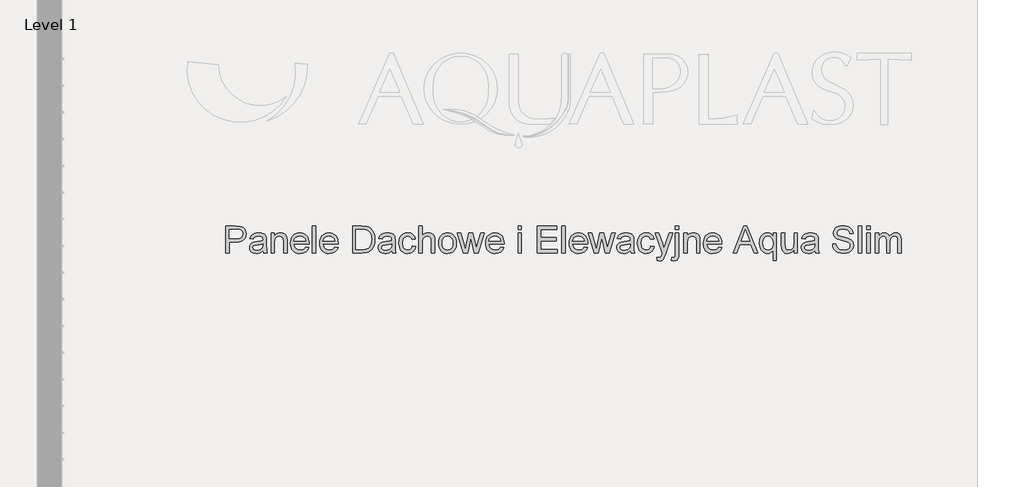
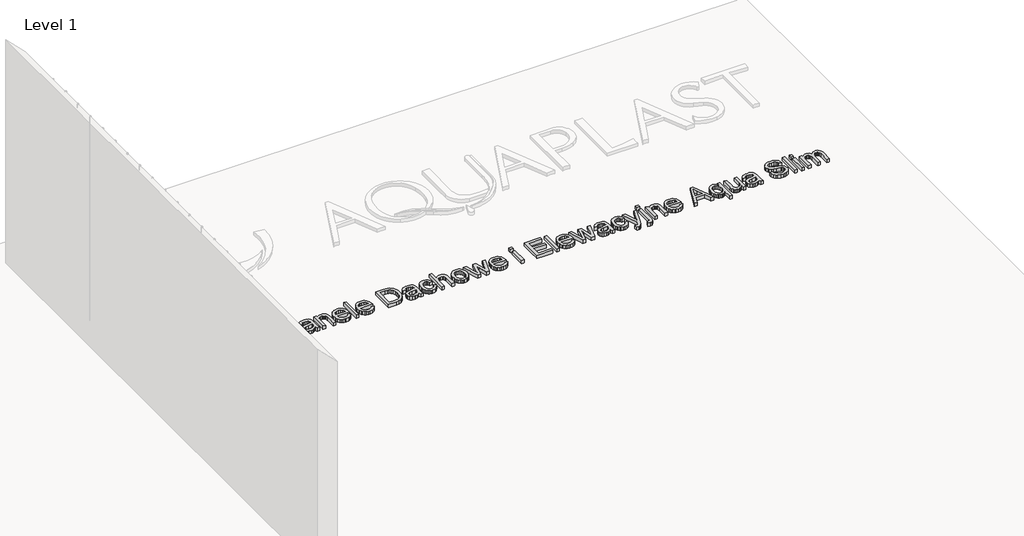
# One storey, part 24 of 24: 1 proxy.
"""IFC4 building model written with IfcOpenShell, lengths in millimetres."""

from ifc_helpers import new_model, si_unit, frame, origin, place, context, project, spatial, polyline, outline, extrude, element, save

model = new_model("IFC4")

# Units and contexts
model_context = context("Model", 3, world=origin())
ifc_project = project(units=[si_unit("LENGTHUNIT", "METRE", prefix="MILLI")], contexts=[model_context])

# Site, building, storey
site = spatial("IfcSite", under=ifc_project)
building = spatial("IfcBuilding", under=site)
storey = spatial("IfcBuildingStorey", under=building, Name="Level 1", Elevation=0.0)

# Proxy
placement = place(None, origin())
element("IfcBuildingElementProxy", 1, Name="400", ObjectType="400", at=placement, inside=storey, context=model_context, shape_type="SweptSolid", body=[
    extrude(outline(polyline([(-320.091711, 13060.2215643), (-320.091711, 13361.5904947), (-208.4027373, 13361.5904947), (-163.3739811, 13358.7210151), (-143.2968212, 13353.3591351), (-126.7697225, 13344.6311347), (-113.4615914, 13332.141541), (-103.0413339, 13315.4948807), (-96.3090933, 13295.8591792), (-94.0650132, 13274.4024618), (-95.5802271, 13255.902596), (-100.125869, 13238.8834552), (-107.7019389, 13223.3450394), (-118.3084367, 13209.2873487), (-132.8696659, 13197.6346865), (-152.3099301, 13189.3113564), (-176.6292292, 13184.3173583), (-205.8275633, 13182.6526923), (-282.4205947, 13182.6526923), (-282.4205947, 13060.2215643), (-320.091711, 13060.2215643)]), holes=[polyline([(-282.4205947, 13220.3238086), (-203.6202713, 13220.3238086), (-170.2165862, 13223.7818993), (-148.1436665, 13234.1561716), (-135.8380137, 13250.8028319), (-131.7361295, 13273.0780867), (-134.1549536, 13290.0006584), (-141.4114259, 13304.2744799), (-152.6042357, 13315.0166341), (-166.8320718, 13321.3442044), (-204.5031881, 13323.9193784), (-282.4205947, 13323.9193784), (-282.4205947, 13220.3238086)])]), frame((0.0, 0.0, 600.0), z_axis=(0.0, 0.0, 1.0), x_axis=(1.0, 0.0, 0.0)), (0.0, 0.0, 1.0), 50.0),
    extrude(outline(polyline([(94.2905684, 13088.4749015), (76.2919417, 13073.0422518), (57.7598862, 13062.943891), (38.2713375, 13057.3704788), (17.4032314, 13055.5126747), (-14.0782704, 13059.982441), (-37.3008213, 13073.3917397), (-51.620628, 13093.7540081), (-56.3938969, 13119.0826835), (-54.5912751, 13134.6992742), (-49.1834098, 13148.8811251), (-40.8416855, 13161.0212309), (-30.237487, 13170.5125864), (-3.860348, 13182.8734214), (28.7339968, 13188.5388042), (67.2512417, 13194.4984925), (94.0698392, 13201.4882504), (94.2905684, 13209.8759599), (91.6970003, 13226.6881671), (83.9162961, 13237.6878387), (66.5154777, 13245.854819), (42.2720542, 13248.5771458), (19.8312525, 13246.765327), (4.1594795, 13241.3298705), (-6.5274924, 13231.277495), (-14.013891, 13215.614919), (-51.6850073, 13220.3238086), (-45.1459049, 13240.9252003), (-35.3878349, 13257.1120081), (-21.5002896, 13269.4912372), (-2.572761, 13278.669893), (20.5762136, 13284.3536698), (47.1280966, 13286.2482621), (72.5947277, 13284.574399), (92.7822522, 13279.5528098), (108.0033697, 13272.0020318), (118.57078, 13262.7406026), (125.5789321, 13251.2902755), (130.1222747, 13237.1728039), (131.9616847, 13204.2105772), (131.9616847, 13157.342411), (133.874671, 13091.896204), (141.3794637, 13060.2215643), (103.7083474, 13060.2215643), (94.2905684, 13088.4749015)]), holes=[polyline([(94.2905684, 13163.8171341), (33.5164628, 13152.2656395), (1.106059, 13146.1587983), (-13.5724326, 13136.2259845), (-18.7227806, 13121.7314339), (-15.9176803, 13110.5294271), (-7.5023797, 13101.3507713), (6.3391804, 13095.2255361), (25.4230589, 13093.183791), (45.6565686, 13095.4370682), (63.5356336, 13102.1968999), (78.0301842, 13112.1573049), (88.1101508, 13124.0123022), (92.5799171, 13136.2259845), (94.0698392, 13153.1485562), (94.2905684, 13163.8171341)])]), frame((0.0, 0.0, 600.0), z_axis=(0.0, 0.0, 1.0), x_axis=(1.0, 0.0, 0.0)), (0.0, 0.0, 1.0), 50.0),
    extrude(outline(polyline([(183.7594696, 13060.2215643), (183.7594696, 13281.5393726), (221.4305859, 13281.5393726), (221.4305859, 13250.637285), (234.5179879, 13266.2170875), (250.2357461, 13277.3455178), (268.5838606, 13284.022576), (289.5623314, 13286.2482621), (308.1311751, 13284.4548374), (325.1365203, 13279.0745632), (339.3183712, 13270.7788242), (349.416732, 13260.239005), (360.7107093, 13232.5374908), (362.697272, 13196.1171733), (362.697272, 13060.2215643), (325.0261557, 13060.2215643), (325.0261557, 13191.0404017), (320.6851482, 13224.3705105), (314.6794746, 13234.2941273), (305.344469, 13241.9920581), (293.3791071, 13246.9308739), (279.4823647, 13248.5771458), (257.4186421, 13244.8799317), (238.6106751, 13233.7882896), (231.0943861, 13224.733794), (225.7256082, 13212.3591634), (221.4305859, 13177.6494971), (221.4305859, 13060.2215643), (183.7594696, 13060.2215643)])), frame((0.0, 0.0, 600.0), z_axis=(0.0, 0.0, 1.0), x_axis=(1.0, 0.0, 0.0)), (0.0, 0.0, 1.0), 50.0),
    extrude(outline(polyline([(569.4469533, 13126.1460178), (606.3823056, 13121.4371283), (593.0741745, 13093.6068553), (571.8381863, 13072.8031285), (543.1525877, 13059.8352882), (507.4956253, 13055.5126747), (484.1213231, 13057.3773766), (463.2946036, 13062.9714822), (445.015467, 13072.2949915), (429.2839132, 13085.3479045), (416.6333711, 13101.7669378), (407.5972696, 13121.1888079), (402.1756086, 13143.6135148), (400.3683883, 13169.0410584), (402.1940027, 13195.3308255), (407.670846, 13218.5027927), (416.798918, 13238.5569599), (429.5782188, 13255.4933273), (445.2683859, 13268.9486113), (463.1290567, 13278.5595284), (483.1602314, 13284.3260787), (505.3619098, 13286.2482621), (526.8485176, 13284.3306772), (546.2795847, 13278.5779225), (563.6551112, 13268.989998), (578.975097, 13255.5669037), (591.4807856, 13238.6673245), (600.4134203, 13218.6499455), (605.7730011, 13195.5147665), (607.559528, 13169.2617876), (607.3387988, 13159.1082446), (438.0395047, 13159.1082446), (444.560213, 13130.9100896), (459.7077542, 13110.1799392), (481.5691417, 13097.4328281), (508.2313893, 13093.183791), (528.2809581, 13095.1519597), (545.1667417, 13101.0564657), (558.8887401, 13111.2651911), (569.4469533, 13126.1460178)]), holes=[polyline([(438.0395047, 13196.7793609), (569.8884117, 13196.7793609), (564.7932461, 13216.6817768), (554.8052499, 13230.91881), (532.8426948, 13244.1625618), (505.214757, 13248.5771458), (479.8217023, 13245.0546757), (458.8248374, 13234.4872654), (444.2291192, 13218.015349), (438.0395047, 13196.7793609)])]), frame((0.0, 0.0, 600.0), z_axis=(0.0, 0.0, 1.0), x_axis=(1.0, 0.0, 0.0)), (0.0, 0.0, 1.0), 50.0),
    extrude(outline(polyline([(645.2306443, 13060.2215643), (645.2306443, 13361.5904947), (682.9017606, 13361.5904947), (682.9017606, 13060.2215643), (645.2306443, 13060.2215643)])), frame((0.0, 0.0, 600.0), z_axis=(0.0, 0.0, 1.0), x_axis=(1.0, 0.0, 0.0)), (0.0, 0.0, 1.0), 50.0),
    extrude(outline(polyline([(894.3603315, 13126.1460178), (931.2956838, 13121.4371283), (917.9875526, 13093.6068553), (896.7515644, 13072.8031285), (868.0659659, 13059.8352882), (832.4090035, 13055.5126747), (809.0347012, 13057.3773766), (788.2079818, 13062.9714822), (769.9288451, 13072.2949915), (754.1972913, 13085.3479045), (741.5467492, 13101.7669378), (732.5106477, 13121.1888079), (727.0889868, 13143.6135148), (725.2817665, 13169.0410584), (727.1073809, 13195.3308255), (732.5842241, 13218.5027927), (741.7122961, 13238.5569599), (754.4915969, 13255.4933273), (770.181764, 13268.9486113), (788.0424349, 13278.5595284), (808.0736095, 13284.3260787), (830.2752879, 13286.2482621), (851.7618957, 13284.3306772), (871.1929628, 13278.5779225), (888.5684893, 13268.989998), (903.8884751, 13255.5669037), (916.3941637, 13238.6673245), (925.3267984, 13218.6499455), (930.6863792, 13195.5147665), (932.4729062, 13169.2617876), (932.252177, 13159.1082446), (762.9528828, 13159.1082446), (769.4735912, 13130.9100896), (784.6211323, 13110.1799392), (806.4825199, 13097.4328281), (833.1447675, 13093.183791), (853.1943362, 13095.1519597), (870.0801198, 13101.0564657), (883.8021182, 13111.2651911), (894.3603315, 13126.1460178)]), holes=[polyline([(762.9528828, 13196.7793609), (894.8017899, 13196.7793609), (889.7066242, 13216.6817768), (879.7186281, 13230.91881), (857.756073, 13244.1625618), (830.1281351, 13248.5771458), (804.7350804, 13245.0546757), (783.7382155, 13234.4872654), (769.1424974, 13218.015349), (762.9528828, 13196.7793609)])]), frame((0.0, 0.0, 600.0), z_axis=(0.0, 0.0, 1.0), x_axis=(1.0, 0.0, 0.0)), (0.0, 0.0, 1.0), 50.0),
    extrude(outline(polyline([(1092.5751505, 13060.2215643), (1092.5751505, 13361.5904947), (1196.5386023, 13361.5904947), (1250.32295, 13357.2494872), (1274.3456443, 13348.8801718), (1294.6159422, 13335.6916022), (1315.4564573, 13312.7357657), (1330.3004958, 13284.1881229), (1339.1848459, 13250.6004968), (1342.146296, 13212.5247103), (1340.1413391, 13180.1786858), (1334.1264685, 13151.7138165), (1324.9662068, 13127.47959), (1313.5250768, 13107.8254944), (1300.3549013, 13092.3100713), (1286.0075035, 13080.4918622), (1269.5355872, 13071.7270737), (1249.9918562, 13065.3719122), (1201.5417974, 13060.2215643), (1092.5751505, 13060.2215643)]), holes=[polyline([(1130.2462668, 13097.8926806), (1196.9064843, 13097.8926806), (1224.4792398, 13099.2538439), (1245.3933313, 13103.3373341), (1261.1754689, 13109.9040277), (1273.3523629, 13118.7148015), (1286.4397649, 13135.0211709), (1296.2714112, 13156.1284004), (1302.4242376, 13182.1284604), (1304.4751797, 13213.1133215), (1300.4560689, 13254.1689521), (1288.3987365, 13284.4824285), (1270.5840509, 13305.3045494), (1249.2928804, 13317.8861137), (1227.6246309, 13322.4110622), (1195.8764147, 13323.9193784), (1130.2462668, 13323.9193784), (1130.2462668, 13097.8926806)])]), frame((0.0, 0.0, 600.0), z_axis=(0.0, 0.0, 1.0), x_axis=(1.0, 0.0, 0.0)), (0.0, 0.0, 1.0), 50.0),
    extrude(outline(polyline([(1530.5018775, 13088.4749015), (1512.5032509, 13073.0422518), (1493.9711954, 13062.943891), (1474.4826467, 13057.3704788), (1453.6145405, 13055.5126747), (1422.1330388, 13059.982441), (1398.9104879, 13073.3917397), (1384.5906812, 13093.7540081), (1379.8174123, 13119.0826835), (1381.6200341, 13134.6992742), (1387.0278994, 13148.8811251), (1395.3696237, 13161.0212309), (1405.9738222, 13170.5125864), (1432.3509612, 13182.8734214), (1464.945306, 13188.5388042), (1503.4625509, 13194.4984925), (1530.2811483, 13201.4882504), (1530.5018775, 13209.8759599), (1527.9083095, 13226.6881671), (1520.1276053, 13237.6878387), (1502.7267869, 13245.854819), (1478.4833634, 13248.5771458), (1456.0425617, 13246.765327), (1440.3707887, 13241.3298705), (1429.6838168, 13231.277495), (1422.1974182, 13215.614919), (1384.5263018, 13220.3238086), (1391.0654043, 13240.9252003), (1400.8234742, 13257.1120081), (1414.7110195, 13269.4912372), (1433.6385482, 13278.669893), (1456.7875227, 13284.3536698), (1483.3394057, 13286.2482621), (1508.8060369, 13284.574399), (1528.9935614, 13279.5528098), (1544.2146789, 13272.0020318), (1554.7820892, 13262.7406026), (1561.7902412, 13251.2902755), (1566.3335839, 13237.1728039), (1568.1729938, 13204.2105772), (1568.1729938, 13157.342411), (1570.0859802, 13091.896204), (1577.5907729, 13060.2215643), (1539.9196566, 13060.2215643), (1530.5018775, 13088.4749015)]), holes=[polyline([(1530.5018775, 13163.8171341), (1469.7277719, 13152.2656395), (1437.3173682, 13146.1587983), (1422.6388765, 13136.2259845), (1417.4885286, 13121.7314339), (1420.2936288, 13110.5294271), (1428.7089295, 13101.3507713), (1442.5504895, 13095.2255361), (1461.634368, 13093.183791), (1481.8678778, 13095.4370682), (1499.7469427, 13102.1968999), (1514.2414933, 13112.1573049), (1524.32146, 13124.0123022), (1528.7912263, 13136.2259845), (1530.2811483, 13153.1485562), (1530.5018775, 13163.8171341)])]), frame((0.0, 0.0, 600.0), z_axis=(0.0, 0.0, 1.0), x_axis=(1.0, 0.0, 0.0)), (0.0, 0.0, 1.0), 50.0),
    extrude(outline(polyline([(1761.2374649, 13140.2726864), (1798.9085812, 13135.5637969), (1788.4055503, 13102.0589442), (1768.6686812, 13076.7394658), (1741.5557782, 13060.8193725), (1708.9246452, 13055.5126747), (1687.7967224, 13057.363581), (1668.8530989, 13062.9162999), (1652.0937747, 13072.1708313), (1637.5187499, 13085.1271753), (1625.7212342, 13101.5416101), (1617.2944372, 13121.1704138), (1612.2383591, 13144.0135864), (1610.5529997, 13170.071128), (1613.4316763, 13203.5943748), (1622.0677061, 13232.6478554), (1636.5990449, 13256.1095296), (1657.1636485, 13272.8573575), (1681.7657569, 13282.9005359), (1708.4096104, 13286.2482621), (1740.2406, 13281.6497372), (1765.688837, 13267.8541623), (1783.9449811, 13245.5973016), (1794.1996917, 13215.614919), (1756.5285754, 13210.9060295), (1749.6951673, 13227.3411576), (1739.0541806, 13239.1225785), (1725.1942264, 13246.213504), (1708.703916, 13248.5771458), (1684.359325, 13243.9234385), (1665.0363232, 13229.9623168), (1652.4271678, 13205.9396225), (1648.224116, 13171.1011976), (1652.3351973, 13135.7937231), (1664.6684412, 13111.6882554), (1683.6419551, 13097.8099071), (1707.6738464, 13093.183791), (1727.1807892, 13096.0716647), (1743.1744589, 13104.7352857), (1754.808727, 13119.3953832), (1761.2374649, 13140.2726864)])), frame((0.0, 0.0, 600.0), z_axis=(0.0, 0.0, 1.0), x_axis=(1.0, 0.0, 0.0)), (0.0, 0.0, 1.0), 50.0),
    extrude(outline(polyline([(1831.870808, 13060.2215643), (1831.870808, 13361.5904947), (1869.5419243, 13361.5904947), (1869.5419243, 13250.7844378), (1883.3788858, 13266.2998609), (1898.9173016, 13277.382306), (1916.1571716, 13284.0317731), (1935.0984958, 13286.2482621), (1957.8519972, 13283.829438), (1977.4049253, 13276.5729656), (1992.8007868, 13265.0490621), (2003.0830885, 13249.8279446), (2008.87723, 13228.9138531), (2010.8086104, 13200.311028), (2010.8086104, 13060.2215643), (1973.1374941, 13060.2215643), (1973.1374941, 13196.4114789), (1970.1392559, 13219.9927148), (1961.1445411, 13236.1427344), (1946.6499905, 13245.4685429), (1927.1522447, 13248.5771458), (1911.2321514, 13246.4802184), (1896.2869453, 13240.1894363), (1883.9077162, 13230.3118047), (1875.6855536, 13217.454329), (1871.0778316, 13200.3662103), (1869.5419243, 13177.7966499), (1869.5419243, 13060.2215643), (1831.870808, 13060.2215643)])), frame((0.0, 0.0, 600.0), z_axis=(0.0, 0.0, 1.0), x_axis=(1.0, 0.0, 0.0)), (0.0, 0.0, 1.0), 50.0),
    extrude(outline(polyline([(2053.1886163, 13170.8804684), (2055.2257628, 13199.5430744), (2061.3372025, 13224.2417518), (2071.5229352, 13244.9765008), (2085.7829611, 13261.7473212), (2100.1395559, 13272.4664828), (2115.9860729, 13280.1230269), (2133.3225119, 13284.7169533), (2152.148873, 13286.2482621), (2172.9319064, 13284.3835602), (2191.7237786, 13278.7894546), (2208.5244895, 13269.4659453), (2223.334039, 13256.4130323), (2235.4212619, 13240.0721739), (2244.0549924, 13220.8848286), (2249.2352308, 13198.8509964), (2250.9619769, 13173.9706772), (2247.9085563, 13135.9132848), (2238.7482946, 13106.9425776), (2223.7479063, 13085.246737), (2203.1741057, 13069.0139439), (2178.7375442, 13058.887992), (2152.148873, 13055.5126747), (2131.0623369, 13057.3704788), (2112.0957208, 13062.943891), (2095.2490246, 13072.2329114), (2080.5222485, 13085.2375399), (2068.5637844, 13101.7370474), (2060.0220243, 13121.5107047), (2054.8969683, 13144.5585117), (2053.1886163, 13170.8804684)]), holes=[polyline([(2090.8597326, 13170.9540448), (2095.2191342, 13136.8605809), (2108.2973392, 13112.5711722), (2127.9790259, 13098.0306363), (2152.148873, 13093.183791), (2176.2083555, 13098.0582275), (2195.853254, 13112.6815368), (2208.9314589, 13137.2928422), (2213.2908606, 13172.1312672), (2208.9038678, 13205.2314497), (2195.7428894, 13229.1897646), (2176.0703997, 13243.7303005), (2152.148873, 13248.5771458), (2127.9790259, 13243.7486946), (2108.2973392, 13229.263341), (2095.2191342, 13205.0291146), (2090.8597326, 13170.9540448)])]), frame((0.0, 0.0, 600.0), z_axis=(0.0, 0.0, 1.0), x_axis=(1.0, 0.0, 0.0)), (0.0, 0.0, 1.0), 50.0),
    extrude(outline(polyline([(2330.3509114, 13060.2215643), (2262.7342007, 13281.5393726), (2301.8032686, 13281.5393726), (2340.0629961, 13152.4127922), (2351.467338, 13106.2803901), (2360.8115406, 13150.7205351), (2391.1985934, 13281.5393726), (2435.9330441, 13281.5393726), (2466.3200969, 13151.0884171), (2474.63423, 13110.8421268), (2486.5536066, 13153.295709), (2524.8133341, 13281.5393726), (2564.1031312, 13281.5393726), (2496.2656913, 13060.2215643), (2450.7954767, 13060.2215643), (2421.8063754, 13190.0103322), (2413.418666, 13230.4773516), (2376.1154316, 13060.2215643), (2330.3509114, 13060.2215643)])), frame((0.0, 0.0, 600.0), z_axis=(0.0, 0.0, 1.0), x_axis=(1.0, 0.0, 0.0)), (0.0, 0.0, 1.0), 50.0),
    extrude(outline(polyline([(2744.95392, 13126.1460178), (2781.8892723, 13121.4371283), (2768.5811411, 13093.6068553), (2747.345153, 13072.8031285), (2718.6595544, 13059.8352882), (2683.002592, 13055.5126747), (2659.6282898, 13057.3773766), (2638.8015703, 13062.9714822), (2620.5224337, 13072.2949915), (2604.7908798, 13085.3479045), (2592.1403377, 13101.7669378), (2583.1042362, 13121.1888079), (2577.6825753, 13143.6135148), (2575.875355, 13169.0410584), (2577.7009694, 13195.3308255), (2583.1778126, 13218.5027927), (2592.3058846, 13238.5569599), (2605.0851854, 13255.4933273), (2620.7753525, 13268.9486113), (2638.6360234, 13278.5595284), (2658.667198, 13284.3260787), (2680.8688764, 13286.2482621), (2702.3554842, 13284.3306772), (2721.7865514, 13278.5779225), (2739.1620778, 13268.989998), (2754.4820637, 13255.5669037), (2766.9877523, 13238.6673245), (2775.920387, 13218.6499455), (2781.2799678, 13195.5147665), (2783.0664947, 13169.2617876), (2782.8457655, 13159.1082446), (2613.5464713, 13159.1082446), (2620.0671797, 13130.9100896), (2635.2147208, 13110.1799392), (2657.0761084, 13097.4328281), (2683.738356, 13093.183791), (2703.7879247, 13095.1519597), (2720.6737083, 13101.0564657), (2734.3957067, 13111.2651911), (2744.95392, 13126.1460178)]), holes=[polyline([(2613.5464713, 13196.7793609), (2745.3953784, 13196.7793609), (2740.3002128, 13216.6817768), (2730.3122166, 13230.91881), (2708.3496615, 13244.1625618), (2680.7217237, 13248.5771458), (2655.3286689, 13245.0546757), (2634.3318041, 13234.4872654), (2619.7360859, 13218.015349), (2613.5464713, 13196.7793609)])]), frame((0.0, 0.0, 600.0), z_axis=(0.0, 0.0, 1.0), x_axis=(1.0, 0.0, 0.0)), (0.0, 0.0, 1.0), 50.0),
    extrude(outline(polyline([(2938.4598495, 13323.9193784), (2938.4598495, 13361.5904947), (2976.1309658, 13361.5904947), (2976.1309658, 13323.9193784), (2938.4598495, 13323.9193784)])), frame((0.0, 0.0, 600.0), z_axis=(0.0, 0.0, 1.0), x_axis=(1.0, 0.0, 0.0)), (0.0, 0.0, 1.0), 50.0),
    extrude(outline(polyline([(2938.4598495, 13060.2215643), (2938.4598495, 13281.5393726), (2976.1309658, 13281.5393726), (2976.1309658, 13060.2215643), (2938.4598495, 13060.2215643)])), frame((0.0, 0.0, 600.0), z_axis=(0.0, 0.0, 1.0), x_axis=(1.0, 0.0, 0.0)), (0.0, 0.0, 1.0), 50.0),
    extrude(outline(polyline([(3155.0687682, 13060.2215643), (3155.0687682, 13361.5904947), (3371.677687, 13361.5904947), (3371.677687, 13323.9193784), (3192.7398845, 13323.9193784), (3192.7398845, 13234.4504772), (3362.2599079, 13234.4504772), (3362.2599079, 13196.7793609), (3192.7398845, 13196.7793609), (3192.7398845, 13097.8926806), (3376.3865765, 13097.8926806), (3376.3865765, 13060.2215643), (3155.0687682, 13060.2215643)])), frame((0.0, 0.0, 600.0), z_axis=(0.0, 0.0, 1.0), x_axis=(1.0, 0.0, 0.0)), (0.0, 0.0, 1.0), 50.0),
    extrude(outline(polyline([(3428.1843615, 13060.2215643), (3428.1843615, 13361.5904947), (3465.8554778, 13361.5904947), (3465.8554778, 13060.2215643), (3428.1843615, 13060.2215643)])), frame((0.0, 0.0, 600.0), z_axis=(0.0, 0.0, 1.0), x_axis=(1.0, 0.0, 0.0)), (0.0, 0.0, 1.0), 50.0),
    extrude(outline(polyline([(3677.3140486, 13126.1460178), (3714.2494009, 13121.4371283), (3700.9412697, 13093.6068553), (3679.7052816, 13072.8031285), (3651.019683, 13059.8352882), (3615.3627206, 13055.5126747), (3591.9884183, 13057.3773766), (3571.1616989, 13062.9714822), (3552.8825622, 13072.2949915), (3537.1510084, 13085.3479045), (3524.5004663, 13101.7669378), (3515.4643648, 13121.1888079), (3510.0427039, 13143.6135148), (3508.2354836, 13169.0410584), (3510.061098, 13195.3308255), (3515.5379412, 13218.5027927), (3524.6660132, 13238.5569599), (3537.445314, 13255.4933273), (3553.1354811, 13268.9486113), (3570.996152, 13278.5595284), (3591.0273266, 13284.3260787), (3613.229005, 13286.2482621), (3634.7156128, 13284.3306772), (3654.1466799, 13278.5779225), (3671.5222064, 13268.989998), (3686.8421923, 13255.5669037), (3699.3478808, 13238.6673245), (3708.2805155, 13218.6499455), (3713.6400963, 13195.5147665), (3715.4266233, 13169.2617876), (3715.2058941, 13159.1082446), (3545.9065999, 13159.1082446), (3552.4273083, 13130.9100896), (3567.5748494, 13110.1799392), (3589.436237, 13097.4328281), (3616.0984846, 13093.183791), (3636.1480533, 13095.1519597), (3653.0338369, 13101.0564657), (3666.7558353, 13111.2651911), (3677.3140486, 13126.1460178)]), holes=[polyline([(3545.9065999, 13196.7793609), (3677.755507, 13196.7793609), (3672.6603413, 13216.6817768), (3662.6723452, 13230.91881), (3640.7097901, 13244.1625618), (3613.0818522, 13248.5771458), (3587.6887975, 13245.0546757), (3566.6919326, 13234.4872654), (3552.0962145, 13218.015349), (3545.9065999, 13196.7793609)])]), frame((0.0, 0.0, 600.0), z_axis=(0.0, 0.0, 1.0), x_axis=(1.0, 0.0, 0.0)), (0.0, 0.0, 1.0), 50.0),
    extrude(outline(polyline([(3790.1066683, 13060.2215643), (3722.4899576, 13281.5393726), (3761.5590255, 13281.5393726), (3799.818753, 13152.4127922), (3811.2230948, 13106.2803901), (3820.5672975, 13150.7205351), (3850.9543503, 13281.5393726), (3895.6888009, 13281.5393726), (3926.0758537, 13151.0884171), (3934.3899868, 13110.8421268), (3946.3093635, 13153.295709), (3984.569091, 13281.5393726), (4023.858888, 13281.5393726), (3956.0214481, 13060.2215643), (3910.5512335, 13060.2215643), (3881.5621323, 13190.0103322), (3873.1744228, 13230.4773516), (3835.8711885, 13060.2215643), (3790.1066683, 13060.2215643)])), frame((0.0, 0.0, 600.0), z_axis=(0.0, 0.0, 1.0), x_axis=(1.0, 0.0, 0.0)), (0.0, 0.0, 1.0), 50.0),
    extrude(outline(polyline([(4191.0244667, 13088.4749015), (4173.02584, 13073.0422518), (4154.4937845, 13062.943891), (4135.0052358, 13057.3704788), (4114.1371297, 13055.5126747), (4082.6556279, 13059.982441), (4059.433077, 13073.3917397), (4045.1132703, 13093.7540081), (4040.3400014, 13119.0826835), (4042.1426232, 13134.6992742), (4047.5504885, 13148.8811251), (4055.8922128, 13161.0212309), (4066.4964113, 13170.5125864), (4092.8735503, 13182.8734214), (4125.4678951, 13188.5388042), (4163.98514, 13194.4984925), (4190.8037375, 13201.4882504), (4191.0244667, 13209.8759599), (4188.4308986, 13226.6881671), (4180.6501944, 13237.6878387), (4163.249376, 13245.854819), (4139.0059525, 13248.5771458), (4116.5651508, 13246.765327), (4100.8933778, 13241.3298705), (4090.2064059, 13231.277495), (4082.7200073, 13215.614919), (4045.048891, 13220.3238086), (4051.5879934, 13240.9252003), (4061.3460634, 13257.1120081), (4075.2336087, 13269.4912372), (4094.1611373, 13278.669893), (4117.3101119, 13284.3536698), (4143.8619949, 13286.2482621), (4169.328626, 13284.574399), (4189.5161505, 13279.5528098), (4204.737268, 13272.0020318), (4215.3046783, 13262.7406026), (4222.3128303, 13251.2902755), (4226.856173, 13237.1728039), (4228.695583, 13204.2105772), (4228.695583, 13157.342411), (4230.6085693, 13091.896204), (4238.113362, 13060.2215643), (4200.4422457, 13060.2215643), (4191.0244667, 13088.4749015)]), holes=[polyline([(4191.0244667, 13163.8171341), (4130.250361, 13152.2656395), (4097.8399573, 13146.1587983), (4083.1614657, 13136.2259845), (4078.0111177, 13121.7314339), (4080.8162179, 13110.5294271), (4089.2315186, 13101.3507713), (4103.0730787, 13095.2255361), (4122.1569572, 13093.183791), (4142.3904669, 13095.4370682), (4160.2695319, 13102.1968999), (4174.7640825, 13112.1573049), (4184.8440491, 13124.0123022), (4189.3138154, 13136.2259845), (4190.8037375, 13153.1485562), (4191.0244667, 13163.8171341)])]), frame((0.0, 0.0, 600.0), z_axis=(0.0, 0.0, 1.0), x_axis=(1.0, 0.0, 0.0)), (0.0, 0.0, 1.0), 50.0),
    extrude(outline(polyline([(4421.760054, 13140.2726864), (4459.4311703, 13135.5637969), (4448.9281394, 13102.0589442), (4429.1912703, 13076.7394658), (4402.0783673, 13060.8193725), (4369.4472343, 13055.5126747), (4348.3193115, 13057.363581), (4329.375688, 13062.9162999), (4312.6163638, 13072.1708313), (4298.041339, 13085.1271753), (4286.2438233, 13101.5416101), (4277.8170264, 13121.1704138), (4272.7609482, 13144.0135864), (4271.0755888, 13170.071128), (4273.9542654, 13203.5943748), (4282.5902952, 13232.6478554), (4297.1216341, 13256.1095296), (4317.6862376, 13272.8573575), (4342.288346, 13282.9005359), (4368.9321995, 13286.2482621), (4400.7631892, 13281.6497372), (4426.2114262, 13267.8541623), (4444.4675702, 13245.5973016), (4454.7222808, 13215.614919), (4417.0511645, 13210.9060295), (4410.2177564, 13227.3411576), (4399.5767697, 13239.1225785), (4385.7168155, 13246.213504), (4369.2265051, 13248.5771458), (4344.8819141, 13243.9234385), (4325.5589123, 13229.9623168), (4312.9497569, 13205.9396225), (4308.7467051, 13171.1011976), (4312.8577864, 13135.7937231), (4325.1910303, 13111.6882554), (4344.1645442, 13097.8099071), (4368.1964355, 13093.183791), (4387.7033783, 13096.0716647), (4403.6970481, 13104.7352857), (4415.3313162, 13119.3953832), (4421.760054, 13140.2726864)])), frame((0.0, 0.0, 600.0), z_axis=(0.0, 0.0, 1.0), x_axis=(1.0, 0.0, 0.0)), (0.0, 0.0, 1.0), 50.0),
    extrude(outline(polyline([(4694.8756472, 13323.9193784), (4694.8756472, 13361.5904947), (4732.5467636, 13361.5904947), (4732.5467636, 13323.9193784), (4694.8756472, 13323.9193784)])), frame((0.0, 0.0, 600.0), z_axis=(0.0, 0.0, 1.0), x_axis=(1.0, 0.0, 0.0)), (0.0, 0.0, 1.0), 50.0),
    extrude(outline(polyline([(4647.4188699, 12975.3143998), (4655.2915446, 13011.1461061), (4672.6555747, 13008.4237793), (4682.4228417, 13010.2907805), (4689.3574173, 13015.8917838), (4693.4960898, 13028.9607917), (4694.8756472, 13053.2318063), (4694.8756472, 13281.5393726), (4732.5467636, 13281.5393726), (4732.5467636, 13048.375764), (4729.8796191, 13013.7948565), (4721.8781857, 12991.574784), (4713.9871169, 12982.4651061), (4703.8519679, 12975.9581933), (4676.8494295, 12970.752663), (4647.4188699, 12975.3143998)])), frame((0.0, 0.0, 600.0), z_axis=(0.0, 0.0, 1.0), x_axis=(1.0, 0.0, 0.0)), (0.0, 0.0, 1.0), 50.0),
    extrude(outline(polyline([(4492.3933971, 12975.4615526), (4487.6845076, 13011.7347173), (4506.8143713, 13008.4237793), (4524.6934363, 13012.5808459), (4535.6563197, 13024.1691287), (4545.9570156, 13051.9074312), (4548.9000716, 13061.0309046), (4468.8489494, 13281.5393726), (4508.5066285, 13281.5393726), (4551.0337871, 13158.5932098), (4565.8226433, 13109.4441752), (4580.6114995, 13152.927827), (4624.2423042, 13281.5393726), (4663.6056777, 13281.5393726), (4586.5711879, 13054.9240635), (4566.5584073, 13005.775029), (4556.3128938, 12990.0848619), (4544.7062168, 12979.2139489), (4531.2417358, 12972.8679845), (4515.42281, 12970.752663), (4492.3933971, 12975.4615526)])), frame((0.0, 0.0, 600.0), z_axis=(0.0, 0.0, 1.0), x_axis=(1.0, 0.0, 0.0)), (0.0, 0.0, 1.0), 50.0),
    extrude(outline(polyline([(4789.053438, 13060.2215643), (4789.053438, 13281.5393726), (4826.7245543, 13281.5393726), (4826.7245543, 13250.637285), (4839.8119563, 13266.2170875), (4855.5297145, 13277.3455178), (4873.877829, 13284.022576), (4894.8562998, 13286.2482621), (4913.4251435, 13284.4548374), (4930.4304888, 13279.0745632), (4944.6123397, 13270.7788242), (4954.7107004, 13260.239005), (4966.0046777, 13232.5374908), (4967.9912405, 13196.1171733), (4967.9912405, 13060.2215643), (4930.3201242, 13060.2215643), (4930.3201242, 13191.0404017), (4925.9791166, 13224.3705105), (4919.973443, 13234.2941273), (4910.6384374, 13241.9920581), (4898.6730755, 13246.9308739), (4884.7763332, 13248.5771458), (4862.7126105, 13244.8799317), (4843.9046435, 13233.7882896), (4836.3883545, 13224.733794), (4831.0195766, 13212.3591634), (4826.7245543, 13177.6494971), (4826.7245543, 13060.2215643), (4789.053438, 13060.2215643)])), frame((0.0, 0.0, 600.0), z_axis=(0.0, 0.0, 1.0), x_axis=(1.0, 0.0, 0.0)), (0.0, 0.0, 1.0), 50.0),
    extrude(outline(polyline([(5174.7409218, 13126.1460178), (5211.6762741, 13121.4371283), (5198.3681429, 13093.6068553), (5177.1321547, 13072.8031285), (5148.4465561, 13059.8352882), (5112.7895938, 13055.5126747), (5089.4152915, 13057.3773766), (5068.588572, 13062.9714822), (5050.3094354, 13072.2949915), (5034.5778816, 13085.3479045), (5021.9273395, 13101.7669378), (5012.891238, 13121.1888079), (5007.4695771, 13143.6135148), (5005.6623568, 13169.0410584), (5007.4879712, 13195.3308255), (5012.9648144, 13218.5027927), (5022.0928864, 13238.5569599), (5034.8721872, 13255.4933273), (5050.5623543, 13268.9486113), (5068.4230251, 13278.5595284), (5088.4541998, 13284.3260787), (5110.6558782, 13286.2482621), (5132.142486, 13284.3306772), (5151.5735531, 13278.5779225), (5168.9490796, 13268.989998), (5184.2690654, 13255.5669037), (5196.774754, 13238.6673245), (5205.7073887, 13218.6499455), (5211.0669695, 13195.5147665), (5212.8534965, 13169.2617876), (5212.6327673, 13159.1082446), (5043.3334731, 13159.1082446), (5049.8541814, 13130.9100896), (5065.0017226, 13110.1799392), (5086.8631102, 13097.4328281), (5113.5253578, 13093.183791), (5133.5749265, 13095.1519597), (5150.4607101, 13101.0564657), (5164.1827085, 13111.2651911), (5174.7409218, 13126.1460178)]), holes=[polyline([(5043.3334731, 13196.7793609), (5175.1823801, 13196.7793609), (5170.0872145, 13216.6817768), (5160.0992183, 13230.91881), (5138.1366632, 13244.1625618), (5110.5087254, 13248.5771458), (5085.1156707, 13245.0546757), (5064.1188058, 13234.4872654), (5049.5230876, 13218.015349), (5043.3334731, 13196.7793609)])]), frame((0.0, 0.0, 600.0), z_axis=(0.0, 0.0, 1.0), x_axis=(1.0, 0.0, 0.0)), (0.0, 0.0, 1.0), 50.0),
    extrude(outline(polyline([(5337.9333748, 13060.2215643), (5458.2307872, 13361.5904947), (5490.3100972, 13361.5904947), (5610.5339332, 13060.2215643), (5570.7291014, 13060.2215643), (5536.2953466, 13154.399355), (5412.098385, 13154.399355), (5377.6646303, 13060.2215643), (5337.9333748, 13060.2215643)]), holes=[polyline([(5425.9307481, 13192.0704713), (5522.53656, 13192.0704713), (5495.3132923, 13266.1619052), (5474.1968658, 13323.9193784), (5455.4348841, 13272.6366283), (5425.9307481, 13192.0704713)])]), frame((0.0, 0.0, 600.0), z_axis=(0.0, 0.0, 1.0), x_axis=(1.0, 0.0, 0.0)), (0.0, 0.0, 1.0), 50.0),
    extrude(outline(polyline([(5782.6291306, 12975.4615526), (5782.6291306, 13090.3878879), (5772.383617, 13076.6474953), (5758.7168009, 13065.4454886), (5742.8610869, 13057.9958782), (5726.0488797, 13055.5126747), (5707.4754375, 13057.4739456), (5690.2355675, 13063.3577583), (5674.3292697, 13073.1641127), (5659.7565442, 13086.8930089), (5647.5888472, 13104.0386091), (5638.8976351, 13124.0950757), (5633.6829078, 13147.0624085), (5631.9446654, 13172.9406076), (5634.7037803, 13204.4864887), (5642.9811252, 13232.6110672), (5656.5007885, 13255.8244211), (5674.9868588, 13272.6366283), (5696.967808, 13282.8453536), (5720.9721082, 13286.2482621), (5739.5317548, 13283.6087088), (5755.9944741, 13275.6900488), (5770.360266, 13262.4922823), (5782.6291306, 13244.015409), (5782.6291306, 13281.5393726), (5820.3002469, 13281.5393726), (5820.3002469, 12975.4615526), (5782.6291306, 12975.4615526)]), holes=[polyline([(5669.6157817, 13170.8804684), (5673.8556217, 13136.8881721), (5686.5751416, 13112.6079604), (5705.2175617, 13098.0398334), (5727.2261021, 13093.183791), (5748.3149375, 13097.8007101), (5766.2583818, 13111.6514672), (5778.5364434, 13134.9383975), (5782.6291306, 13167.863836), (5778.3157142, 13203.0609459), (5765.375465, 13228.3068479), (5746.6226803, 13243.5095713), (5724.8716573, 13248.5771458), (5703.5253046, 13243.8590592), (5685.6922249, 13229.7047994), (5673.6348925, 13205.5625435), (5669.6157817, 13170.8804684)])]), frame((0.0, 0.0, 600.0), z_axis=(0.0, 0.0, 1.0), x_axis=(1.0, 0.0, 0.0)), (0.0, 0.0, 1.0), 50.0),
    extrude(outline(polyline([(6018.0736075, 13060.2215643), (6018.0736075, 13098.2605626), (6004.4435796, 13079.5583616), (5988.5694715, 13066.1996467), (5970.4512832, 13058.1844177), (5950.0890148, 13055.5126747), (5931.7409003, 13057.3888729), (5914.6619787, 13063.0174674), (5900.3329749, 13071.4787533), (5890.2346142, 13081.8530256), (5879.0142133, 13109.591328), (5876.8069213, 13144.613694), (5876.8069213, 13281.5393726), (5914.4780377, 13281.5393726), (5914.4780377, 13162.3456061), (5916.758906, 13123.9387258), (5922.2495448, 13111.1272353), (5931.6581268, 13101.3875595), (5944.3592527, 13095.2347331), (5959.7275231, 13093.183791), (5975.9787102, 13095.2807184), (5991.1814336, 13101.5715005), (6003.7170126, 13111.4767232), (6011.9667664, 13124.4169724), (6016.5468972, 13142.1396875), (6018.0736075, 13166.3923081), (6018.0736075, 13281.5393726), (6055.7447238, 13281.5393726), (6055.7447238, 13060.2215643), (6018.0736075, 13060.2215643)])), frame((0.0, 0.0, 600.0), z_axis=(0.0, 0.0, 1.0), x_axis=(1.0, 0.0, 0.0)), (0.0, 0.0, 1.0), 50.0),
    extrude(outline(polyline([(6248.8091949, 13088.4749015), (6230.8105683, 13073.0422518), (6212.2785127, 13062.943891), (6192.7899641, 13057.3704788), (6171.9218579, 13055.5126747), (6140.4403561, 13059.982441), (6117.2178052, 13073.3917397), (6102.8979985, 13093.7540081), (6098.1247296, 13119.0826835), (6099.9273514, 13134.6992742), (6105.3352168, 13148.8811251), (6113.676941, 13161.0212309), (6124.2811395, 13170.5125864), (6150.6582786, 13182.8734214), (6183.2526233, 13188.5388042), (6221.7698682, 13194.4984925), (6248.5884657, 13201.4882504), (6248.8091949, 13209.8759599), (6246.2156268, 13226.6881671), (6238.4349226, 13237.6878387), (6221.0341042, 13245.854819), (6196.7906808, 13248.5771458), (6174.349879, 13246.765327), (6158.6781061, 13241.3298705), (6147.9911341, 13231.277495), (6140.5047355, 13215.614919), (6102.8336192, 13220.3238086), (6109.3727216, 13240.9252003), (6119.1307916, 13257.1120081), (6133.0183369, 13269.4912372), (6151.9458655, 13278.669893), (6175.0948401, 13284.3536698), (6201.6467231, 13286.2482621), (6227.1133542, 13284.574399), (6247.3008787, 13279.5528098), (6262.5219962, 13272.0020318), (6273.0894066, 13262.7406026), (6280.0975586, 13251.2902755), (6284.6409012, 13237.1728039), (6286.4803112, 13204.2105772), (6286.4803112, 13157.342411), (6288.3932976, 13091.896204), (6295.8980903, 13060.2215643), (6258.2269739, 13060.2215643), (6248.8091949, 13088.4749015)]), holes=[polyline([(6248.8091949, 13163.8171341), (6188.0350893, 13152.2656395), (6155.6246855, 13146.1587983), (6140.9461939, 13136.2259845), (6135.795846, 13121.7314339), (6138.6009462, 13110.5294271), (6147.0162468, 13101.3507713), (6160.8578069, 13095.2255361), (6179.9416854, 13093.183791), (6200.1751951, 13095.4370682), (6218.0542601, 13102.1968999), (6232.5488107, 13112.1573049), (6242.6287774, 13124.0123022), (6247.0985436, 13136.2259845), (6248.5884657, 13153.1485562), (6248.8091949, 13163.8171341)])]), frame((0.0, 0.0, 600.0), z_axis=(0.0, 0.0, 1.0), x_axis=(1.0, 0.0, 0.0)), (0.0, 0.0, 1.0), 50.0),
    extrude(outline(polyline([(6446.5825555, 13163.8171341), (6484.2536718, 13163.8171341), (6488.5762852, 13142.9122397), (6496.3937776, 13126.1092296), (6508.5890658, 13112.7735073), (6526.0450664, 13102.2704763), (6547.3822222, 13095.4554623), (6571.2209754, 13093.183791), (6592.2086433, 13094.9036394), (6610.5843489, 13100.0631843), (6625.4743727, 13108.2301646), (6636.0049948, 13118.9723189), (6642.2681858, 13131.3055628), (6644.3559161, 13144.245812), (6642.7924176, 13156.8549673), (6638.1019222, 13167.7534714), (6628.5737785, 13177.0516889), (6612.4973353, 13184.8599842), (6557.6461298, 13199.2441702), (6521.6396795, 13208.7631169), (6498.6010696, 13217.822211), (6479.8482849, 13230.4957457), (6466.5585478, 13245.854819), (6458.6398879, 13263.5683371), (6456.0003346, 13283.3052061), (6459.2652873, 13305.3689288), (6469.0601454, 13325.9427294), (6485.1273915, 13343.3803359), (6507.2095083, 13356.0354766), (6533.715406, 13363.7334073), (6563.0539952, 13366.2993842), (6594.8389995, 13363.6138457), (6622.6508784, 13355.55723), (6645.4963503, 13342.2950841), (6662.3821338, 13323.9929548), (6673.0691058, 13301.7912764), (6677.3181429, 13276.830483), (6639.6470265, 13276.830483), (6632.730845, 13299.3080729), (6618.3098708, 13315.5316689), (6595.7770986, 13325.3541182), (6564.5255231, 13328.6282679), (6532.5381837, 13325.3909064), (6510.5940226, 13315.6788217), (6497.9020938, 13301.3866062), (6493.6714509, 13284.4088521), (6496.6696891, 13269.9326956), (6505.6644039, 13258.2892305), (6526.9279832, 13247.87817), (6567.1742735, 13237.2463803), (6608.7081508, 13227.1480196), (6633.834491, 13218.3372458), (6655.3096025, 13204.6704297), (6670.2915967, 13187.8030402), (6679.0931735, 13167.9190183), (6682.0270324, 13145.2023051), (6678.6517151, 13121.9797542), (6668.5257632, 13100.1367607), (6652.0630439, 13081.3379908), (6629.6774245, 13067.2481104), (6602.7576595, 13058.4465336), (6572.6925034, 13055.5126747), (6535.7847423, 13058.6764599), (6505.4068865, 13068.1678154), (6481.2094483, 13084.0235293), (6462.8429397, 13106.2803901), (6451.0523217, 13133.3932931), (6446.5825555, 13163.8171341)])), frame((0.0, 0.0, 600.0), z_axis=(0.0, 0.0, 1.0), x_axis=(1.0, 0.0, 0.0)), (0.0, 0.0, 1.0), 50.0),
    extrude(outline(polyline([(6733.8248173, 13060.2215643), (6733.8248173, 13361.5904947), (6771.4959336, 13361.5904947), (6771.4959336, 13060.2215643), (6733.8248173, 13060.2215643)])), frame((0.0, 0.0, 600.0), z_axis=(0.0, 0.0, 1.0), x_axis=(1.0, 0.0, 0.0)), (0.0, 0.0, 1.0), 50.0),
    extrude(outline(polyline([(6828.0026081, 13323.9193784), (6828.0026081, 13361.5904947), (6865.6737244, 13361.5904947), (6865.6737244, 13323.9193784), (6828.0026081, 13323.9193784)])), frame((0.0, 0.0, 600.0), z_axis=(0.0, 0.0, 1.0), x_axis=(1.0, 0.0, 0.0)), (0.0, 0.0, 1.0), 50.0),
    extrude(outline(polyline([(6828.0026081, 13060.2215643), (6828.0026081, 13281.5393726), (6865.6737244, 13281.5393726), (6865.6737244, 13060.2215643), (6828.0026081, 13060.2215643)])), frame((0.0, 0.0, 600.0), z_axis=(0.0, 0.0, 1.0), x_axis=(1.0, 0.0, 0.0)), (0.0, 0.0, 1.0), 50.0),
    extrude(outline(polyline([(6922.1803988, 13060.2215643), (6922.1803988, 13281.5393726), (6959.8515151, 13281.5393726), (6959.8515151, 13245.119055), (6971.1822806, 13261.8484888), (6985.7504076, 13274.9542848), (7003.0592555, 13283.4247678), (7022.6121835, 13286.2482621), (7043.5630632, 13283.3695855), (7060.3568762, 13274.7335556), (7072.9016523, 13260.9103897), (7081.1054208, 13242.4703047), (7094.8366162, 13261.623161), (7110.4991922, 13275.3037727), (7128.0931486, 13283.5121398), (7147.6184855, 13286.2482621), (7175.9362021, 13281.6957224), (7196.8778846, 13268.0381033), (7209.8181338, 13244.9075229), (7214.1315502, 13211.9360991), (7214.1315502, 13060.2215643), (7176.4604339, 13060.2215643), (7176.4604339, 13195.7492913), (7172.965555, 13227.2032019), (7168.0543303, 13235.8760199), (7160.3104143, 13242.6910339), (7150.3500093, 13247.1056178), (7138.7893176, 13248.5771458), (7118.3810639, 13244.8063553), (7101.7436007, 13233.493984), (7090.6795497, 13213.8674795), (7086.9915327, 13185.1542898), (7086.9915327, 13060.2215643), (7049.3204164, 13060.2215643), (7049.3204164, 13199.943146), (7047.1407156, 13221.2435135), (7040.6016131, 13236.4370399), (7029.0961037, 13245.5421193), (7012.0171821, 13248.5771458), (6997.5042374, 13246.5537948), (6984.1317268, 13240.4837419), (6973.095267, 13230.5141398), (6965.5904743, 13216.7921414), (6961.2862549, 13197.7542482), (6959.8515151, 13171.8369616), (6959.8515151, 13060.2215643), (6922.1803988, 13060.2215643)])), frame((0.0, 0.0, 600.0), z_axis=(0.0, 0.0, 1.0), x_axis=(1.0, 0.0, 0.0)), (0.0, 0.0, 1.0), 50.0),
])

save(model, "model.ifc")
